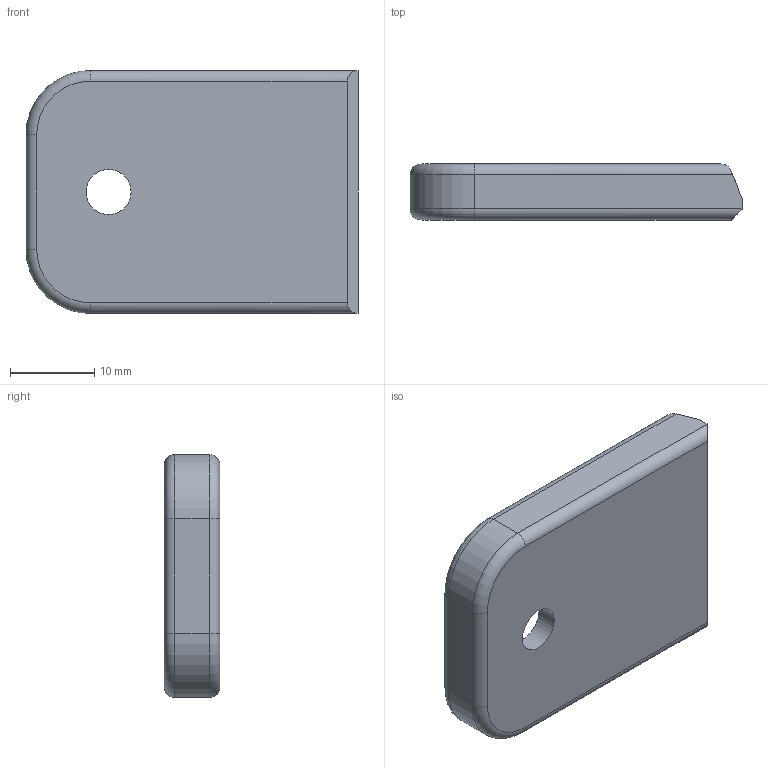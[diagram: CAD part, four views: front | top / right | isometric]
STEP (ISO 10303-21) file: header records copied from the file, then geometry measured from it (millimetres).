
FILE_DESCRIPTION(/* description */ (''),/* implementation_level */ '2;1');
FILE_NAME(/* name */ 'C:\Users\johne\Desktop\Menendez Mag 17\STEP\Menendez Mag Baseplate V1.2.stp',/* time_stamp */ '2019-06-27T23:09:37-05:00',/* author */ ('johne'),/* organization */ (''),/* preprocessor_version */ 'ST-DEVELOPER v16.13',/* originating_system */ 'Autodesk Inventor 2018',/* authorisation */ '');
FILE_SCHEMA (('AUTOMOTIVE_DESIGN { 1 0 10303 214 3 1 1 }'));
Length unit declared in the file: inch
Products named in the file (1): Menendez Mag Baseplate V1.2
Bounding box: 39.32 x 6.6 x 28.78 mm (x, y, z)
Volume: 3539.6 mm3; surface area: 3459.8 mm2
Topology: 1 solids, 1 shells, 64 faces, 154 edges, 92 vertices
Faces by surface type: cylinder 31, plane 19, torus 10, bspline 4
Full cylindrical faces by diameter (mm): 5.334 x1
Entity records: 2099 total; most frequent: CARTESIAN_POINT 557, DIRECTION 329, ORIENTED_EDGE 306, EDGE_CURVE 153, AXIS2_PLACEMENT_3D 127, VERTEX_POINT 92, LINE 75, VECTOR 75
